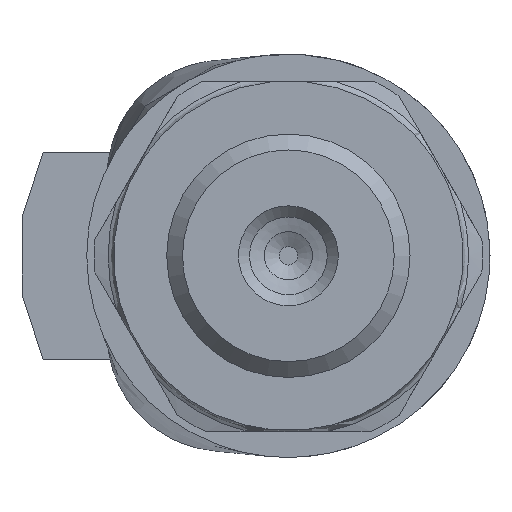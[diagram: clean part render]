
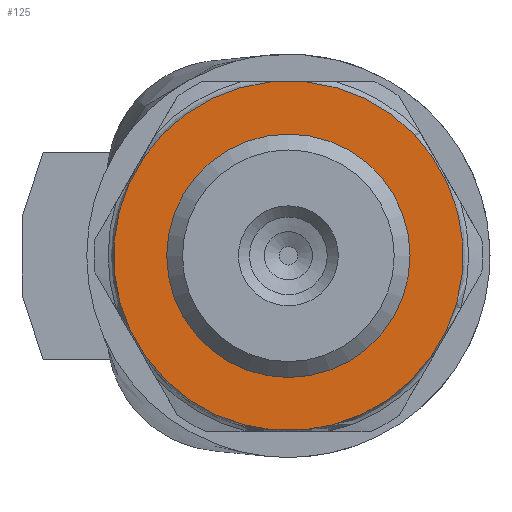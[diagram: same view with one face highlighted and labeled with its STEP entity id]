
A CAD part, front view. The second image highlights one B-rep face of the part: STEP entity #125.
In plain terms, the highlighted planar face has unit normal (0, -1, 0).
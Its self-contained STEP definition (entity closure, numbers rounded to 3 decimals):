
#125 = ADVANCED_FACE( '', ( #268, #269 ), #270, .F. );
#268 = FACE_BOUND( '', #757, .T. );
#269 = FACE_OUTER_BOUND( '', #758, .T. );
#270 = PLANE( '', #759 );
#757 = EDGE_LOOP( '', ( #1264 ) );
#758 = EDGE_LOOP( '', ( #1265, #1266 ) );
#759 = AXIS2_PLACEMENT_3D( '', #1267, #1268, #1269 );
#1264 = ORIENTED_EDGE( '', *, *, #1607, .F. );
#1265 = ORIENTED_EDGE( '', *, *, #1602, .T. );
#1266 = ORIENTED_EDGE( '', *, *, #1608, .T. );
#1267 = CARTESIAN_POINT( '', ( 9.45, 11., 0. ) );
#1268 = DIRECTION( '', ( 0., 1., 0. ) );
#1269 = DIRECTION( '', ( 0., 0., 1. ) );
#1602 = EDGE_CURVE( '', #1898, #1899, #1900, .T. );
#1607 = EDGE_CURVE( '', #1905, #1905, #1906, .T. );
#1608 = EDGE_CURVE( '', #1899, #1898, #1907, .T. );
#1898 = VERTEX_POINT( '', #2623 );
#1899 = VERTEX_POINT( '', #2624 );
#1900 = CIRCLE( '', #2625, 9.45 );
#1905 = VERTEX_POINT( '', #2632 );
#1906 = CIRCLE( '', #2633, 6.35 );
#1907 = LINE( '', #2634, #2635 );
#2623 = CARTESIAN_POINT( '', ( -0.971, 11., 9.4 ) );
#2624 = CARTESIAN_POINT( '', ( 0.971, 11., 9.4 ) );
#2625 = AXIS2_PLACEMENT_3D( '', #2841, #2842, #2843 );
#2632 = CARTESIAN_POINT( '', ( 0., 11., -6.35 ) );
#2633 = AXIS2_PLACEMENT_3D( '', #2852, #2853, #2854 );
#2634 = CARTESIAN_POINT( '', ( 9.45, 11., 9.4 ) );
#2635 = VECTOR( '', #2855, 1000. );
#2841 = CARTESIAN_POINT( '', ( 0., 11., 0. ) );
#2842 = DIRECTION( '', ( 0., -1., 0. ) );
#2843 = DIRECTION( '', ( 0., 0., -1. ) );
#2852 = CARTESIAN_POINT( '', ( 0., 11., 0. ) );
#2853 = DIRECTION( '', ( 0., -1., 0. ) );
#2854 = DIRECTION( '', ( 0., 0., -1. ) );
#2855 = DIRECTION( '', ( -1., 0., 0. ) );
